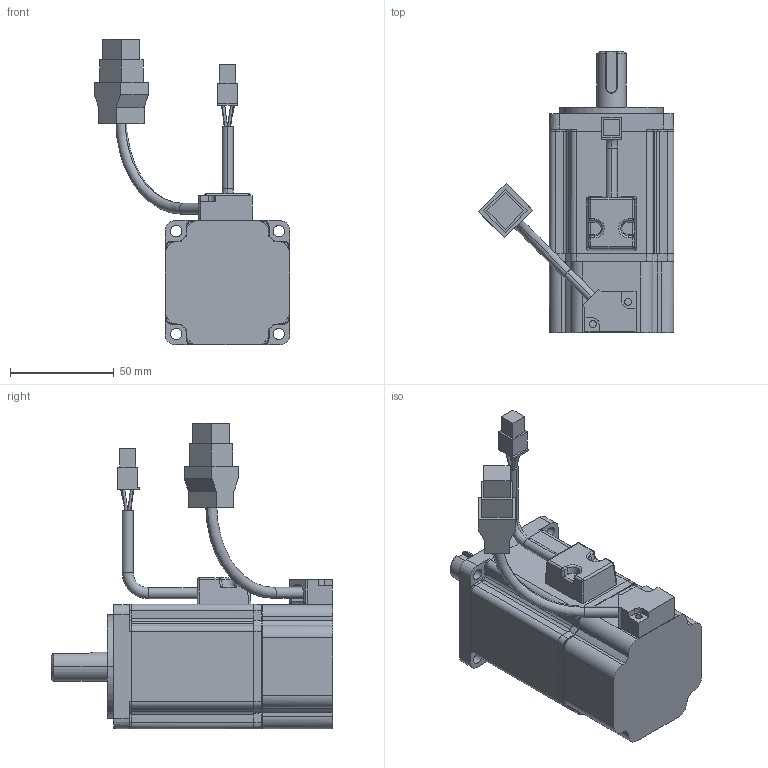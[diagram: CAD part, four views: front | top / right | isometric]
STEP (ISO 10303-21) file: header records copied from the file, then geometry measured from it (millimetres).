
FILE_DESCRIPTION((''),'2;1');
FILE_NAME('ECMA-CX0602ES','2015-03-23T',('MIO.CHEN'),(''),'PRO/ENGINEER BY PARAMETRIC TECHNOLOGY CORPORATION, 2010180','PRO/ENGINEER BY PARAMETRIC TECHNOLOGY CORPORATION, 2010180','');
FILE_SCHEMA(('AUTOMOTIVE_DESIGN_CC2 { 1 2 10303 214 -1 1 5 2 }'));
Length unit declared in the file: millimetre
Products named in the file (1): ECMA-CX0602ES
Bounding box: 94.24 x 135.51 x 147.37 mm (x, y, z)
Volume: 369433.9 mm3; surface area: 44285.8 mm2
Topology: 1 solids, 10 shells, 451 faces, 1117 edges, 699 vertices
Faces by surface type: plane 217, cylinder 178, cone 27, bspline 11, torus 10, sphere 8
Entity records: 14317 total; most frequent: CARTESIAN_POINT 3598, ORIENTED_EDGE 2230, DIRECTION 2208, EDGE_CURVE 1115, AXIS2_PLACEMENT_3D 797, VERTEX_POINT 699, VECTOR 614, LINE 614
